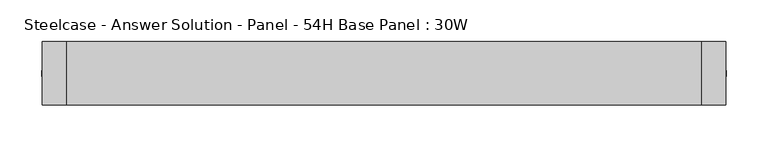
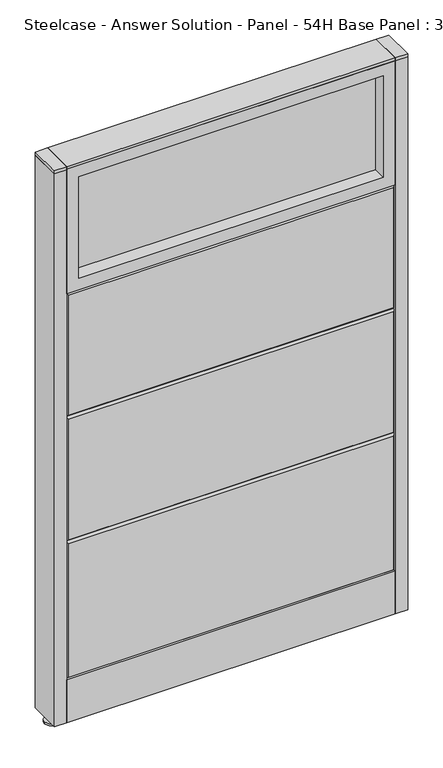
"""IFC4 building model written with IfcOpenShell, lengths in millimetres: furniture geometry, Steelcase - Answer Solution - Panel - 54H Base Panel : 30W."""

from ifc_helpers import new_model, si_unit, point, frame, frame_2d, origin, place, context, project, spatial, polyline, circle_curve, trimmed, segment, composite_curve, outline, extrude, faceted_brep, source, transform, mapped, element, save


def steelcase_answer_solution_panel_54h_base_panel_30w_d64c9624(model_context):
    return source(origin(), model_context, "Body", "SolidModel", [
        extrude(outline(composite_curve([segment(trimmed(circle_curve(frame_2d((395.224, 0.0320214)), 5.08), [point((400.304, 0.0320214))], [point((390.144, 0.0320214))], False, "CARTESIAN"), True, "CONTINUOUS"), segment(trimmed(circle_curve(frame_2d((395.224, 0.0320214)), 5.08), [point((390.144, 0.0320214))], [point((400.304, 0.0320214))], False, "CARTESIAN"), True, "CONTINUOUS")], self_intersect=False)), frame((0.0, 0.0, 5.0799671), z_axis=(0.0, 0.0, 1.0), x_axis=(1.0, 0.0, 0.0)), (0.0, 0.0, 1.0), 10.414),
        extrude(outline(composite_curve([segment(trimmed(circle_curve(frame_2d((395.224, 0.0320214)), 15.24), [point((410.464, 0.0320214))], [point((379.984, 0.0320214))], False, "CARTESIAN"), True, "CONTINUOUS"), segment(trimmed(circle_curve(frame_2d((395.224, 0.0320214)), 15.24), [point((379.984, 0.0320214))], [point((410.464, 0.0320214))], False, "CARTESIAN"), True, "CONTINUOUS")], self_intersect=False)), frame((0.0, 0.0, -3.29e-05), z_axis=(0.0, 0.0, 1.0), x_axis=(1.0, 0.0, 0.0)), (0.0, 0.0, 1.0), 5.08),
        extrude(outline(polyline([(409.575, 38.1320408), (409.575, -38.0679592), (381.0, -38.0679592), (381.0, 38.1320408), (409.575, 38.1320408)])), frame((0.0, 0.0, 1370.6348), z_axis=(0.0, 0.0, 1.0), x_axis=(1.0, 0.0, 0.0)), (0.0, 0.0, 1.0), 7.3151671),
        extrude(outline(polyline([(409.575, 38.1320408), (409.575, -38.0679592), (381.0, -38.0679592), (381.0, 38.1320408), (409.575, 38.1320408)])), frame((0.0, 0.0, 15.4939671), z_axis=(0.0, 0.0, 1.0), x_axis=(1.0, 0.0, 0.0)), (0.0, 0.0, 1.0), 1355.1408329),
        extrude(outline(composite_curve([segment(trimmed(circle_curve(frame_2d((-395.224, 0.0320214)), 5.08), [point((-400.304, 0.0320214))], [point((-390.144, 0.0320214))], False, "CARTESIAN"), True, "CONTINUOUS"), segment(trimmed(circle_curve(frame_2d((-395.224, 0.0320214)), 5.08), [point((-390.144, 0.0320214))], [point((-400.304, 0.0320214))], False, "CARTESIAN"), True, "CONTINUOUS")], self_intersect=False)), frame((0.0, 0.0, 5.0799671), z_axis=(0.0, 0.0, 1.0), x_axis=(1.0, 0.0, 0.0)), (0.0, 0.0, 1.0), 10.414),
        extrude(outline(composite_curve([segment(trimmed(circle_curve(frame_2d((-395.224, 0.0320214)), 15.24), [point((-410.464, 0.0320214))], [point((-379.984, 0.0320214))], False, "CARTESIAN"), True, "CONTINUOUS"), segment(trimmed(circle_curve(frame_2d((-395.224, 0.0320214)), 15.24), [point((-379.984, 0.0320214))], [point((-410.464, 0.0320214))], False, "CARTESIAN"), True, "CONTINUOUS")], self_intersect=False)), frame((0.0, 0.0, -3.29e-05), z_axis=(0.0, 0.0, 1.0), x_axis=(1.0, 0.0, 0.0)), (0.0, 0.0, 1.0), 5.08),
        extrude(outline(polyline([(-409.575, 38.1320408), (-381.0, 38.1320408), (-381.0, -38.0679592), (-409.575, -38.0679592), (-409.575, 38.1320408)])), frame((0.0, 0.0, 1370.6348), z_axis=(0.0, 0.0, 1.0), x_axis=(1.0, 0.0, 0.0)), (0.0, 0.0, 1.0), 7.3151671),
        extrude(outline(polyline([(-409.575, 38.1320408), (-381.0, 38.1320408), (-381.0, -38.0679592), (-409.575, -38.0679592), (-409.575, 38.1320408)])), frame((0.0, 0.0, 15.4939671), z_axis=(0.0, 0.0, 1.0), x_axis=(1.0, 0.0, 0.0)), (0.0, 0.0, 1.0), 1355.1408329),
        extrude(outline(polyline([(-353.06, 6.346049), (353.06, 6.346049), (353.06, -6.353951), (-353.06, -6.353951), (-353.06, 6.346049)])), frame((0.0, 0.0, 1094.74), z_axis=(0.0, 0.0, 1.0), x_axis=(1.0, 0.0, 0.0)), (0.0, 0.0, 1.0), 248.92),
        extrude(outline(polyline([(1371.6, -381.0), (1066.8, -381.0), (1066.8, 381.0), (1371.6, 381.0), (1371.6, -381.0)]), holes=[polyline([(1343.66, -353.06), (1343.66, 353.06), (1094.74, 353.06), (1094.74, -353.06), (1343.66, -353.06)])]), frame((0.0, -38.103951, 0.0), z_axis=(0.0, 1.0, 0.0), x_axis=(0.0, 0.0, 1.0)), (0.0, 0.0, 1.0), 76.2),
        faceted_brep([(-376.174, 38.1635011, 1061.974), (376.174, 38.1635011, 1061.974), (376.174, 38.1635011, 766.826), (-376.174, 38.1635011, 766.826), (-381.0, 33.3375011, 1066.8), (-381.0, 33.3375011, 762.0), (381.0, 33.3375011, 762.0), (381.0, 33.3375011, 1066.8)], [[[0, 1, 2, 3]], [[4, 5, 6, 7]], [[4, 7, 1, 0]], [[7, 6, 2, 1]], [[6, 5, 3, 2]], [[5, 4, 0, 3]]]),
        faceted_brep([(-376.174, 38.1635011, 757.174), (376.174, 38.1635011, 757.174), (376.174, 38.1635011, 462.026), (-376.174, 38.1635011, 462.026), (-381.0, 33.3375011, 762.0), (-381.0, 33.3375011, 457.2), (381.0, 33.3375011, 457.2), (381.0, 33.3375011, 762.0)], [[[0, 1, 2, 3]], [[4, 5, 6, 7]], [[4, 7, 1, 0]], [[7, 6, 2, 1]], [[6, 5, 3, 2]], [[5, 4, 0, 3]]]),
        faceted_brep([(-376.174, 38.1635011, 452.374), (376.174, 38.1635011, 452.374), (376.174, 38.1635011, 125.476), (-376.174, 38.1635011, 125.476), (-381.0, 33.3375011, 457.2), (-381.0, 33.3375011, 120.65), (381.0, 33.3375011, 120.65), (381.0, 33.3375011, 457.2)], [[[0, 1, 2, 3]], [[4, 5, 6, 7]], [[4, 7, 1, 0]], [[7, 6, 2, 1]], [[6, 5, 3, 2]], [[5, 4, 0, 3]]]),
        extrude(outline(polyline([(353.06, -6.346049), (-353.06, -6.346049), (-353.06, 6.353951), (353.06, 6.353951), (353.06, -6.346049)])), frame((0.0, 0.0, 1094.74), z_axis=(0.0, 0.0, 1.0), x_axis=(1.0, 0.0, 0.0)), (0.0, 0.0, 1.0), 248.92),
        extrude(outline(polyline([(1371.6, 381.0), (1371.6, -381.0), (1066.8, -381.0), (1066.8, 381.0), (1371.6, 381.0)]), holes=[polyline([(1343.66, 353.06), (1094.74, 353.06), (1094.74, -353.06), (1343.66, -353.06), (1343.66, 353.06)])]), frame((0.0, -38.096049, 0.0), z_axis=(0.0, 1.0, 0.0), x_axis=(0.0, 0.0, 1.0)), (0.0, 0.0, 1.0), 76.2),
        faceted_brep([(376.174, -38.1635011, 1061.974), (-376.174, -38.1635011, 1061.974), (-376.174, -38.1635011, 766.826), (376.174, -38.1635011, 766.826), (381.0, -33.3375011, 1066.8), (381.0, -33.3375011, 762.0), (-381.0, -33.3375011, 762.0), (-381.0, -33.3375011, 1066.8)], [[[0, 1, 2, 3]], [[4, 5, 6, 7]], [[4, 7, 1, 0]], [[7, 6, 2, 1]], [[6, 5, 3, 2]], [[5, 4, 0, 3]]]),
        faceted_brep([(376.174, -38.1635011, 757.174), (-376.174, -38.1635011, 757.174), (-376.174, -38.1635011, 462.026), (376.174, -38.1635011, 462.026), (381.0, -33.3375011, 762.0), (381.0, -33.3375011, 457.2), (-381.0, -33.3375011, 457.2), (-381.0, -33.3375011, 762.0)], [[[0, 1, 2, 3]], [[4, 5, 6, 7]], [[4, 7, 1, 0]], [[7, 6, 2, 1]], [[6, 5, 3, 2]], [[5, 4, 0, 3]]]),
        faceted_brep([(376.174, -38.1635011, 452.374), (-376.174, -38.1635011, 452.374), (-376.174, -38.1635011, 125.476), (376.174, -38.1635011, 125.476), (381.0, -33.3375011, 457.2), (381.0, -33.3375011, 120.65), (-381.0, -33.3375011, 120.65), (-381.0, -33.3375011, 457.2)], [[[0, 1, 2, 3]], [[4, 5, 6, 7]], [[4, 7, 1, 0]], [[7, 6, 2, 1]], [[6, 5, 3, 2]], [[5, 4, 0, 3]]]),
        extrude(outline(polyline([(381.0, 38.1000194), (381.0, -38.1000194), (-381.0, -38.1000194), (-381.0, 38.1000194), (381.0, 38.1000194)])), frame((0.0, 0.0, 1371.6), z_axis=(0.0, 0.0, 1.0), x_axis=(1.0, 0.0, 0.0)), (0.0, 0.0, 1.0), 6.35),
        extrude(outline(polyline([(25.4000011, 119.8575157), (25.4000011, 120.65), (38.1000194, 120.65), (38.1000194, 15.494), (37.3075215, 15.494), (37.3075215, 119.8575157), (25.4000011, 119.8575157)])), frame((-381.0, 0.0, 0.0), z_axis=(1.0, 0.0, 0.0), x_axis=(0.0, 1.0, 0.0)), (0.0, 0.0, 1.0), 762.0),
        extrude(outline(polyline([(-25.4000011, 119.8575157), (-37.3075215, 119.8575157), (-37.3075215, 15.494), (-38.1000194, 15.494), (-38.1000194, 120.65), (-25.4000011, 120.65), (-25.4000011, 119.8575157)])), frame((-381.0, 0.0, 0.0), z_axis=(1.0, 0.0, 0.0), x_axis=(0.0, 1.0, 0.0)), (0.0, 0.0, 1.0), 762.0),
    ])


if __name__ == "__main__":
    model = new_model("IFC4")
    model_context = context("Model", 3, world=origin())
    ifc_project = project(units=[si_unit("LENGTHUNIT", "METRE", prefix="MILLI")], contexts=[model_context])
    site = spatial("IfcSite", under=ifc_project)
    building = spatial("IfcBuilding", under=site)
    placement = place(None, origin())
    steelcase_answer_solution_panel_54h_base_panel_30w_shape = steelcase_answer_solution_panel_54h_base_panel_30w_d64c9624(model_context)
    element("IfcFurniture", 1, ObjectType="Steelcase - Answer Solution - Panel - 54H Base Panel : 30W", at=placement, inside=building, context=model_context, shape_type="MappedRepresentation", body=[
        mapped(steelcase_answer_solution_panel_54h_base_panel_30w_shape, transform((0.0, 0.0, 0.0), x_axis=(1.0, 0.0, 0.0), y_axis=(0.0, 1.0, 0.0), z_axis=(0.0, 0.0, 1.0))),
    ])
    save(model, "model.ifc")
